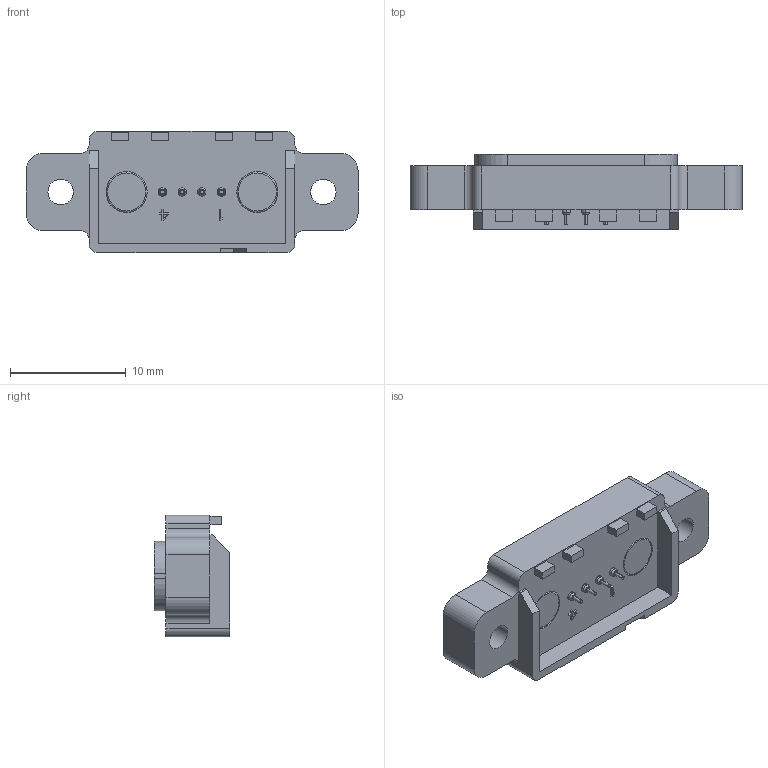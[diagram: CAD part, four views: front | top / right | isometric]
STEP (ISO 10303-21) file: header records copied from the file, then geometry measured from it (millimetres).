
FILE_DESCRIPTION((''),'2;1');
FILE_NAME('FEMALE_HSG_13_1','2022-05-19T11:39:31',('Administrator'),(''),'CREO PARAMETRIC BY PTC INC, 2018400','CREO PARAMETRIC BY PTC INC, 2018400','');
FILE_SCHEMA(('CONFIG_CONTROL_DESIGN'));
Length unit declared in the file: millimetre
Products named in the file (1): FEMALE_HSG_13_1
Bounding box: 28.7 x 6.5 x 10.5 mm (x, y, z)
Volume: 1005.2 mm3; surface area: 1150.1 mm2
Topology: 1 solids, 5 shells, 248 faces, 604 edges, 400 vertices
Faces by surface type: plane 140, cylinder 82, cone 18, torus 8
Entity records: 7372 total; most frequent: DIRECTION 1330, CARTESIAN_POINT 1252, ORIENTED_EDGE 1208, EDGE_CURVE 604, AXIS2_PLACEMENT_3D 478, VERTEX_POINT 400, VECTOR 374, LINE 374
